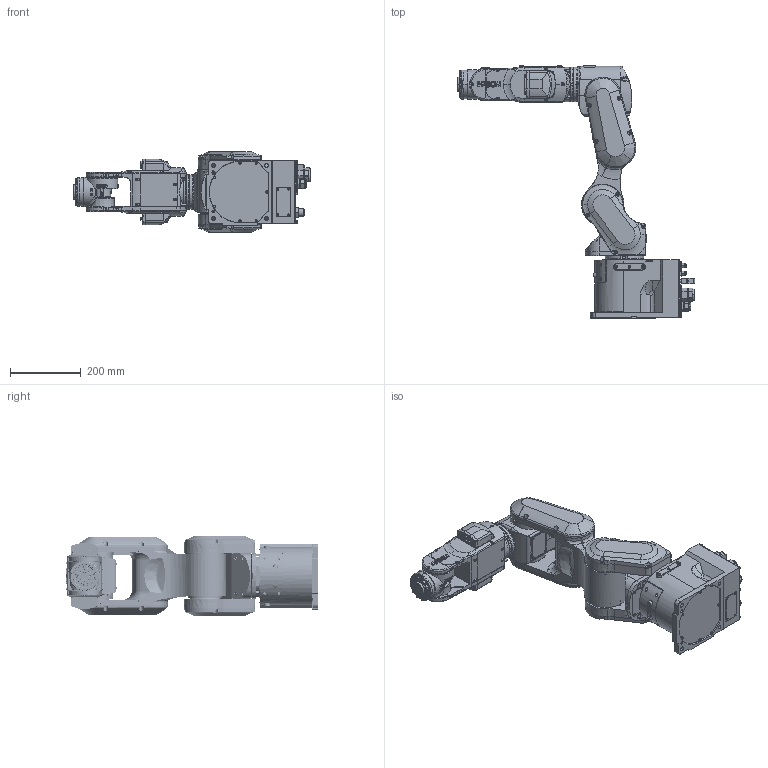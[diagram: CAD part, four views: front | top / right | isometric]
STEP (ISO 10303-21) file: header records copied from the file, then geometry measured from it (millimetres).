
FILE_DESCRIPTION (( 'STEP AP214' ), '1' );
FILE_NAME ('CX7-x701C.STEP', '2026-07-24T16:14:16', ( '' ), ( '' ), 'SwSTEP 2.0', 'SolidWorks 2020', '' );
FILE_SCHEMA (( 'AUTOMOTIVE_DESIGN' ));
Length unit declared in the file: millimetre
Products named in the file (8): CX7-A701C_J2; CX7-A701C_J1; CX7-A701C_J4; CX7-A701C_J3; CX7-A701C_BASE; CX7-A701C_J6; CX7-x701C; CX7-A701C_J5
Assembly tree (7 placements, depth 2):
  CX7-x701C
    CX7-A701C_BASE
    CX7-A701C_J1
    CX7-A701C_J2
    CX7-A701C_J3
    CX7-A701C_J4
    CX7-A701C_J5
    CX7-A701C_J6
Bounding box: 672 x 712 x 228 mm (x, y, z)
Volume: 7848324.4 mm3; surface area: 1114191.7 mm2
Topology: 4 solids, 9 shells, 4184 faces, 10385 edges, 6445 vertices
Faces by surface type: plane 1528, cylinder 1383, cone 793, torus 343, sphere 69, bspline 68
Entity records: 193221 total; most frequent: CARTESIAN_POINT 85859, ORIENTED_EDGE 20436, DIRECTION 13055, EDGE_CURVE 10227, B_SPLINE_CURVE_WITH_KNOTS 7062, VERTEX_POINT 6445, AXIS2_PLACEMENT_3D 5790, EDGE_LOOP 4600
